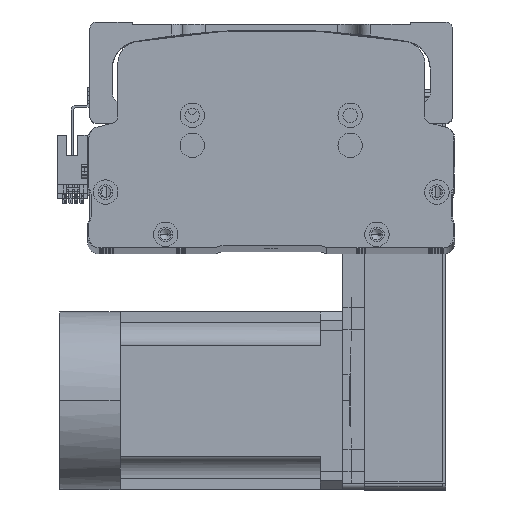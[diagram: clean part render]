
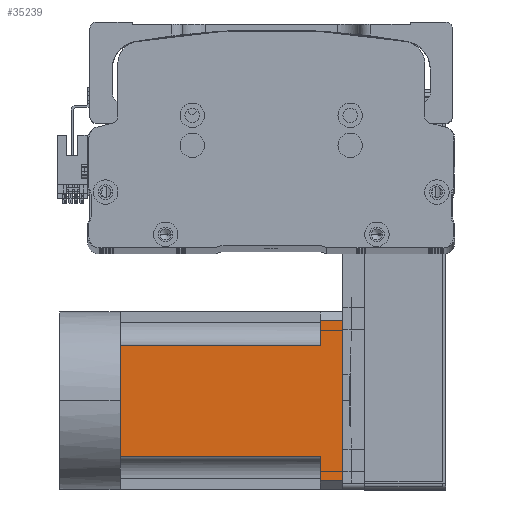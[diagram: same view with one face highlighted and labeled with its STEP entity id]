
A CAD part, top view. The second image highlights one B-rep face of the part: STEP entity #35239.
In plain terms, the highlighted planar face has unit normal (0, 0, 1) as drawn and (0, 0, -1) by its records, which use the part's own axes.
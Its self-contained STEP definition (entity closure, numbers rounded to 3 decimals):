
#859 = VECTOR ( 'NONE', #17915, 1000. ) ;
#1257 = DIRECTION ( 'NONE',  ( -1., 0., 0. ) ) ;
#1260 = LINE ( 'NONE', #55508, #55297 ) ;
#1345 = VERTEX_POINT ( 'NONE', #6765 ) ;
#1925 = EDGE_CURVE ( 'NONE', #53395, #17307, #33048, .T. ) ;
#2499 = LINE ( 'NONE', #23178, #859 ) ;
#2579 = CARTESIAN_POINT ( 'NONE',  ( -40., 0., -40. ) ) ;
#4185 = EDGE_CURVE ( 'NONE', #57509, #1345, #2499, .T. ) ;
#4622 = VECTOR ( 'NONE', #44422, 1000. ) ;
#6158 = EDGE_CURVE ( 'NONE', #1345, #53395, #46398, .T. ) ;
#6159 = DIRECTION ( 'NONE',  ( 0., -1., 0. ) ) ;
#6765 = CARTESIAN_POINT ( 'NONE',  ( -25., 90., -40. ) ) ;
#7914 = ORIENTED_EDGE ( 'NONE', *, *, #1925, .T. ) ;
#10155 = VECTOR ( 'NONE', #18344, 1000. ) ;
#10434 = CARTESIAN_POINT ( 'NONE',  ( 36., -27., -40. ) ) ;
#11876 = LINE ( 'NONE', #49556, #62668 ) ;
#12087 = ORIENTED_EDGE ( 'NONE', *, *, #4185, .T. ) ;
#13111 = CARTESIAN_POINT ( 'NONE',  ( 36., 100., -40. ) ) ;
#14409 = DIRECTION ( 'NONE',  ( 0., 1., 0. ) ) ;
#14583 = VERTEX_POINT ( 'NONE', #28191 ) ;
#14909 = VECTOR ( 'NONE', #6159, 1000. ) ;
#16573 = LINE ( 'NONE', #48054, #14909 ) ;
#17307 = VERTEX_POINT ( 'NONE', #30144 ) ;
#17915 = DIRECTION ( 'NONE',  ( 0., 1., 0. ) ) ;
#18344 = DIRECTION ( 'NONE',  ( -1., 0., 0. ) ) ;
#19114 = VECTOR ( 'NONE', #14409, 1000. ) ;
#22093 = CARTESIAN_POINT ( 'NONE',  ( -40., 100., -40. ) ) ;
#22406 = VERTEX_POINT ( 'NONE', #13111 ) ;
#23178 = CARTESIAN_POINT ( 'NONE',  ( -25., -27., -40. ) ) ;
#23454 = DIRECTION ( 'NONE',  ( -1., 0., 0. ) ) ;
#24821 = VECTOR ( 'NONE', #1257, 1000. ) ;
#28189 = EDGE_CURVE ( 'NONE', #22406, #65108, #52924, .T. ) ;
#28191 = CARTESIAN_POINT ( 'NONE',  ( 0., 0., -40. ) ) ;
#28480 = EDGE_CURVE ( 'NONE', #14583, #57509, #11876, .T. ) ;
#30144 = CARTESIAN_POINT ( 'NONE',  ( -36., 100., -40. ) ) ;
#33048 = LINE ( 'NONE', #66402, #19114 ) ;
#34615 = DIRECTION ( 'NONE',  ( -1., 0., 0. ) ) ;
#35239 = ADVANCED_FACE ( 'NONE', ( #50059 ), #40554, .T. ) ;
#35651 = VERTEX_POINT ( 'NONE', #40938 ) ;
#35673 = ORIENTED_EDGE ( 'NONE', *, *, #66494, .F. ) ;
#38135 = VERTEX_POINT ( 'NONE', #43823 ) ;
#40554 = PLANE ( 'NONE',  #53632 ) ;
#40938 = CARTESIAN_POINT ( 'NONE',  ( 25., 0., -40. ) ) ;
#43823 = CARTESIAN_POINT ( 'NONE',  ( 25., 90., -40. ) ) ;
#44422 = DIRECTION ( 'NONE',  ( -1., 0., 0. ) ) ;
#45856 = DIRECTION ( 'NONE',  ( -1., 0., 0. ) ) ;
#46398 = LINE ( 'NONE', #49702, #4622 ) ;
#48012 = ORIENTED_EDGE ( 'NONE', *, *, #28189, .T. ) ;
#48054 = CARTESIAN_POINT ( 'NONE',  ( 25., -27., -40. ) ) ;
#49556 = CARTESIAN_POINT ( 'NONE',  ( -40., 0., -40. ) ) ;
#49702 = CARTESIAN_POINT ( 'NONE',  ( -40., 90., -40. ) ) ;
#50059 = FACE_OUTER_BOUND ( 'NONE', #64640, .T. ) ;
#50478 = ORIENTED_EDGE ( 'NONE', *, *, #57327, .T. ) ;
#51265 = VECTOR ( 'NONE', #52375, 1000. ) ;
#51986 = LINE ( 'NONE', #2579, #10155 ) ;
#52089 = ORIENTED_EDGE ( 'NONE', *, *, #56890, .T. ) ;
#52375 = DIRECTION ( 'NONE',  ( 0., -1., 0. ) ) ;
#52924 = LINE ( 'NONE', #10434, #51265 ) ;
#53261 = CARTESIAN_POINT ( 'NONE',  ( -36., 90., -40. ) ) ;
#53395 = VERTEX_POINT ( 'NONE', #53261 ) ;
#53632 = AXIS2_PLACEMENT_3D ( 'NONE', #66674, #60914, #45856 ) ;
#54310 = LINE ( 'NONE', #22093, #24821 ) ;
#54968 = ORIENTED_EDGE ( 'NONE', *, *, #61933, .T. ) ;
#55297 = VECTOR ( 'NONE', #34615, 1000. ) ;
#55508 = CARTESIAN_POINT ( 'NONE',  ( -40., 90., -40. ) ) ;
#56890 = EDGE_CURVE ( 'NONE', #65108, #38135, #1260, .T. ) ;
#57327 = EDGE_CURVE ( 'NONE', #35651, #14583, #51986, .T. ) ;
#57509 = VERTEX_POINT ( 'NONE', #61364 ) ;
#60249 = ORIENTED_EDGE ( 'NONE', *, *, #6158, .T. ) ;
#60914 = DIRECTION ( 'NONE',  ( 0., 0., -1. ) ) ;
#61364 = CARTESIAN_POINT ( 'NONE',  ( -25., 0., -40. ) ) ;
#61933 = EDGE_CURVE ( 'NONE', #38135, #35651, #16573, .T. ) ;
#62668 = VECTOR ( 'NONE', #23454, 1000. ) ;
#64640 = EDGE_LOOP ( 'NONE', ( #35673, #48012, #52089, #54968, #50478, #67456, #12087, #60249, #7914 ) ) ;
#65108 = VERTEX_POINT ( 'NONE', #67374 ) ;
#66402 = CARTESIAN_POINT ( 'NONE',  ( -36., -27., -40. ) ) ;
#66494 = EDGE_CURVE ( 'NONE', #22406, #17307, #54310, .T. ) ;
#66674 = CARTESIAN_POINT ( 'NONE',  ( -40., -27., -40. ) ) ;
#67374 = CARTESIAN_POINT ( 'NONE',  ( 36., 90., -40. ) ) ;
#67456 = ORIENTED_EDGE ( 'NONE', *, *, #28480, .T. ) ;
